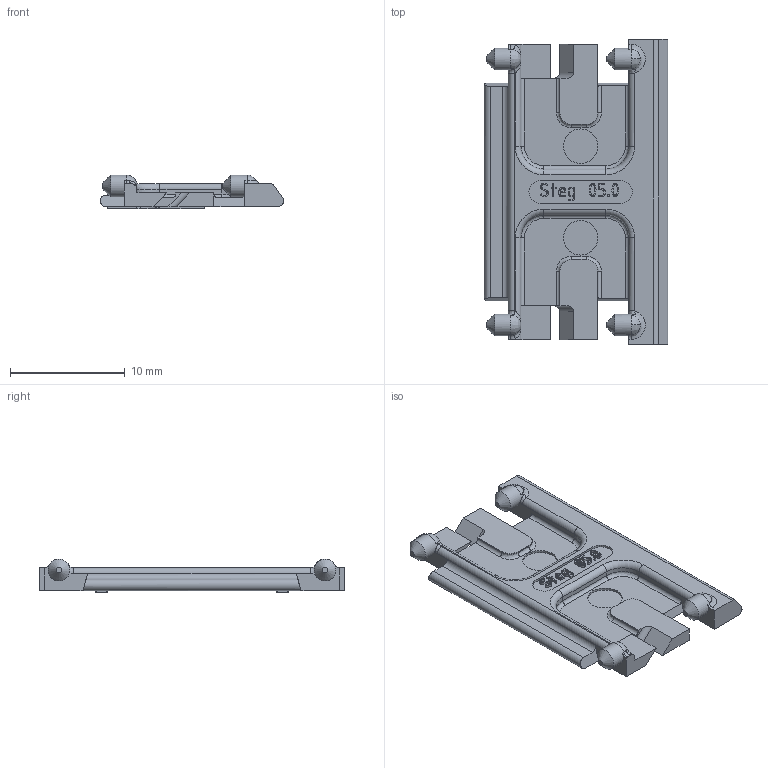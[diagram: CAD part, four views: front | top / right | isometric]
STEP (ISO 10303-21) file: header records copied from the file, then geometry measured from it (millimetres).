
FILE_DESCRIPTION((''),'2;1');
FILE_NAME('C:\Uebbing\PARAMETERKETTEN\KOLIBRI\Kol_22_038_0\Kol_22_038_0_Klappsteg.stp','2011-11-02T11:16:06',('Uebbing'),(''),'Autodesk Inventor 10','Autodesk Inventor 10','');
FILE_SCHEMA(('AUTOMOTIVE_DESIGN { 1 0 10303 214 1 1 1 1 }'));
Length unit declared in the file: millimetre
Products named in the file (1): Kol_22_038_0_Klappsteg
Bounding box: 16 x 26.6 x 2.95 mm (x, y, z)
Volume: 511.2 mm3; surface area: 1001.1 mm2
Topology: 1 solids, 1 shells, 342 faces, 949 edges, 624 vertices
Faces by surface type: bspline 140, plane 129, cylinder 65, cone 4, torus 4
Full cylindrical faces by diameter (mm): 1.9 x4, 3 x2
Entity records: 12949 total; most frequent: CARTESIAN_POINT 5065, ORIENTED_EDGE 1860, DIRECTION 1245, EDGE_CURVE 930, VERTEX_POINT 617, VECTOR 489, LINE 489, AXIS2_PLACEMENT_3D 378
